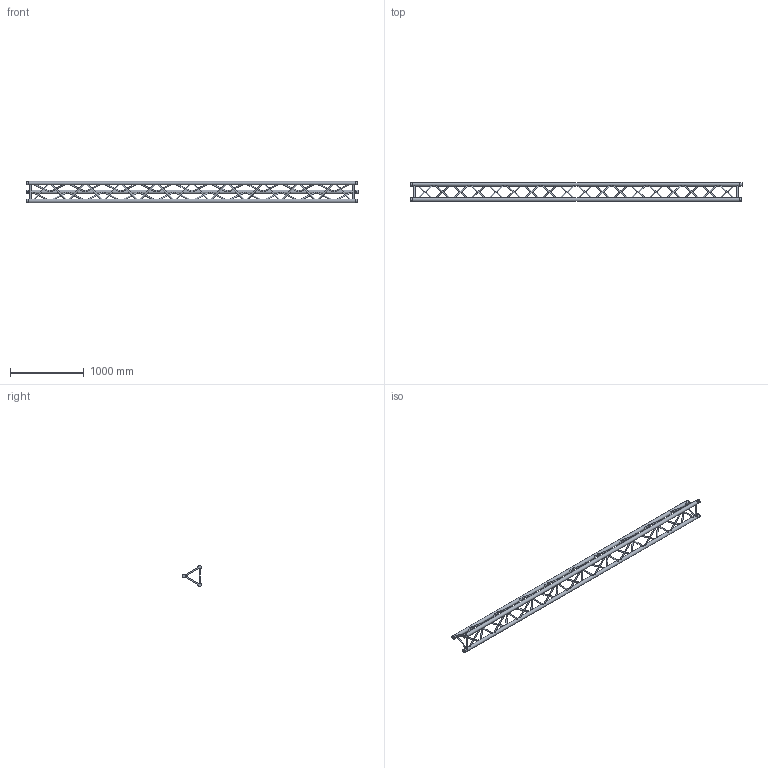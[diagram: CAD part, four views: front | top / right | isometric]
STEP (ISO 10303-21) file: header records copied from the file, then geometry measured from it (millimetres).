
FILE_DESCRIPTION(/* description */ (''),/* implementation_level */ '2;1');
FILE_NAME(/* name */ 'M:\Symbolen\STP\30-er truss\111050032.stp',/* time_stamp */ '2014-12-03T14:37:00+01:00',/* author */ ('Stephan'),/* organization */ (''),/* preprocessor_version */ 'ST-DEVELOPER v15.6',/* originating_system */ 'Autodesk Inventor 2015',/* authorisation */ '');
FILE_SCHEMA (('AUTOMOTIVE_DESIGN { 1 0 10303 214 3 1 1 }'));
Length unit declared in the file: millimetre
Products named in the file (1): 160023783
Bounding box: 4500 x 255.28 x 287.3 mm (x, y, z)
Volume: 27409000.7 mm3; surface area: 2892586.5 mm2
Topology: 57 solids, 63 shells, 225 faces, 333 edges, 234 vertices
Faces by surface type: plane 144, cylinder 75, cone 6
Full cylindrical faces by diameter (mm): 10 x6, 16 x60, 48.3 x9
Entity records: 5166 total; most frequent: CARTESIAN_POINT 1018, DIRECTION 776, ORIENTED_EDGE 408, AXIS2_PLACEMENT_3D 382, EDGE_LOOP 336, STYLED_ITEM 280, FACE_OUTER_BOUND 225, ADVANCED_FACE 225
